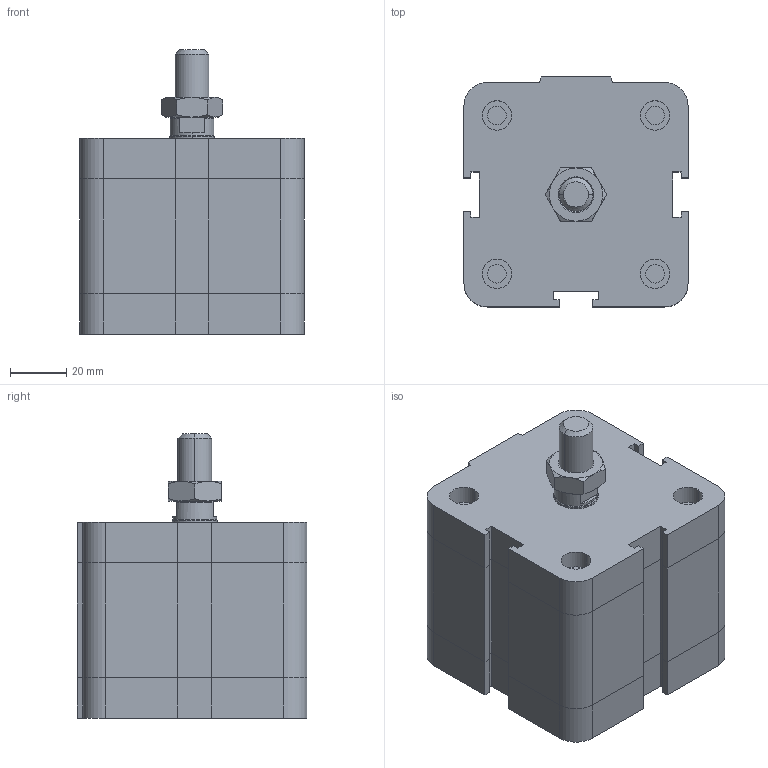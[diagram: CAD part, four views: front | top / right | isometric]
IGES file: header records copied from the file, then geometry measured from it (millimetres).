
Global section: file name: No Iges File Name specified; native system: Autodesk Inventor 2009; preprocessor: AutoDesk Inventor Iges Exporter R2009; author: rivolro1; date: 20081219.160509; units: millimetre
Bounding box: 80 x 82 x 101.5 mm (x, y, z)
Volume: 427416.7 mm3; surface area: 49062.7 mm2
Topology: 3 solids, 3 shells, 216 faces, 472 edges, 282 vertices
Faces by surface type: plane 121, bspline 37, cylinder 20, cone 20, revolution 18
